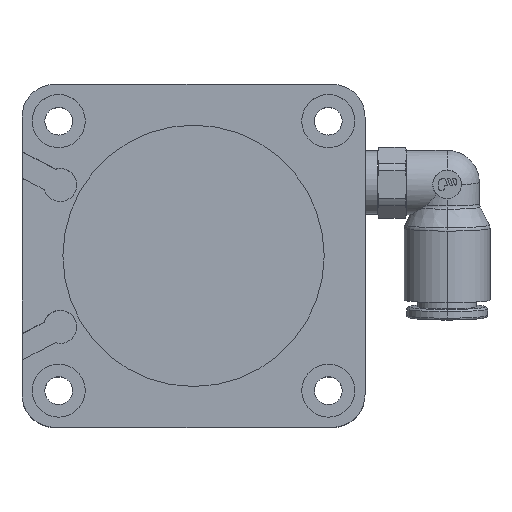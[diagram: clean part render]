
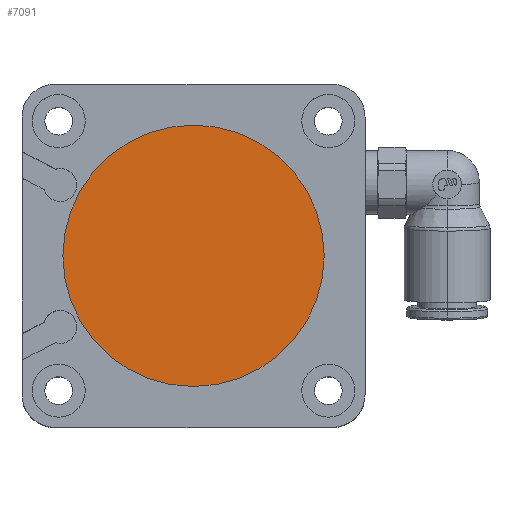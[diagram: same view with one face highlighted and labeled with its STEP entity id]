
A CAD part, top view. The second image highlights one B-rep face of the part: STEP entity #7091.
In plain terms, the highlighted planar face has unit normal (0, 0, 1).
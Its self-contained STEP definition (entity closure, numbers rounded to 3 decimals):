
#105 = DIRECTION ( 'NONE',  ( 1., 0., 0. ) ) ;
#193 = CARTESIAN_POINT ( 'NONE',  ( 16., 0., 70.8 ) ) ;
#237 = CARTESIAN_POINT ( 'NONE',  ( 0., 0., 70.8 ) ) ;
#741 = VERTEX_POINT ( 'NONE', #4393 ) ;
#773 = DIRECTION ( 'NONE',  ( 0., 0., 1. ) ) ;
#803 = EDGE_CURVE ( 'NONE', #741, #5165, #983, .T. ) ;
#983 = CIRCLE ( 'NONE', #4000, 16. ) ;
#1074 = ORIENTED_EDGE ( 'NONE', *, *, #2541, .T. ) ;
#1212 = DIRECTION ( 'NONE',  ( 0., 0., 1. ) ) ;
#1588 = AXIS2_PLACEMENT_3D ( 'NONE', #7299, #1212, #105 ) ;
#2432 = EDGE_LOOP ( 'NONE', ( #1074, #3432 ) ) ;
#2541 = EDGE_CURVE ( 'NONE', #5165, #741, #5724, .T. ) ;
#2647 = DIRECTION ( 'NONE',  ( 0., 0., 1. ) ) ;
#3106 = FACE_OUTER_BOUND ( 'NONE', #2432, .T. ) ;
#3276 = DIRECTION ( 'NONE',  ( 1., 0., 0. ) ) ;
#3432 = ORIENTED_EDGE ( 'NONE', *, *, #803, .T. ) ;
#3763 = DIRECTION ( 'NONE',  ( 1., 0., 0. ) ) ;
#4000 = AXIS2_PLACEMENT_3D ( 'NONE', #4467, #773, #3763 ) ;
#4393 = CARTESIAN_POINT ( 'NONE',  ( -16., 0., 70.8 ) ) ;
#4467 = CARTESIAN_POINT ( 'NONE',  ( 0., 0., 70.8 ) ) ;
#5165 = VERTEX_POINT ( 'NONE', #193 ) ;
#5502 = PLANE ( 'NONE',  #1588 ) ;
#5724 = CIRCLE ( 'NONE', #6217, 16. ) ;
#6217 = AXIS2_PLACEMENT_3D ( 'NONE', #237, #2647, #3276 ) ;
#7091 = ADVANCED_FACE ( 'NONE', ( #3106 ), #5502, .T. ) ;
#7299 = CARTESIAN_POINT ( 'NONE',  ( 0., 0., 70.8 ) ) ;
